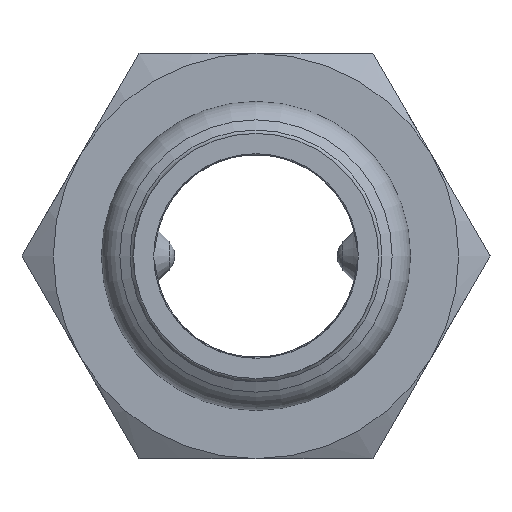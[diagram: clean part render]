
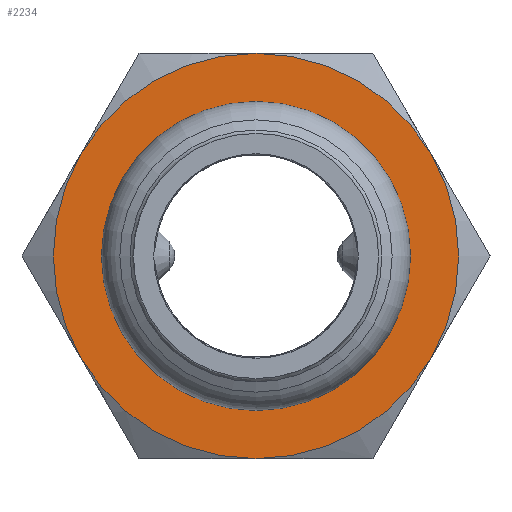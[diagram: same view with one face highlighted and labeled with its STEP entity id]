
A CAD part, left-side view. The second image highlights one B-rep face of the part: STEP entity #2234.
In plain terms, the highlighted planar face has unit normal (-1, 0, 0) as drawn and (0, 0, -1) by its records, which use the part's own axes.
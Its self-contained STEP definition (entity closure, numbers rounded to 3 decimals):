
#1424=CARTESIAN_POINT('',(-12.99,7.5,0.));
#1425=VERTEX_POINT('',#1424);
#1439=CARTESIAN_POINT('',(0.,15.,0.));
#1440=VERTEX_POINT('',#1439);
#1454=CARTESIAN_POINT('',(0.0,0.0,0.0));
#1455=DIRECTION('',(0.0,0.0,-1.0));
#1456=DIRECTION('',(1.0,0.0,0.0));
#1457=AXIS2_PLACEMENT_3D('',#1454,#1455,#1456);
#1458=CIRCLE('',#1457,15.);
#1459=EDGE_CURVE('',#1425,#1440,#1458,.T.);
#1471=CARTESIAN_POINT('',(-12.99,-7.5,0.));
#1472=VERTEX_POINT('',#1471);
#1499=CARTESIAN_POINT('',(0.0,0.0,0.0));
#1500=DIRECTION('',(0.0,0.0,-1.0));
#1501=DIRECTION('',(1.0,0.0,0.0));
#1502=AXIS2_PLACEMENT_3D('',#1499,#1500,#1501);
#1503=CIRCLE('',#1502,15.);
#1504=EDGE_CURVE('',#1472,#1425,#1503,.T.);
#1516=CARTESIAN_POINT('',(0.,-15.,0.));
#1517=VERTEX_POINT('',#1516);
#1544=CARTESIAN_POINT('',(0.0,0.0,0.0));
#1545=DIRECTION('',(0.0,0.0,-1.0));
#1546=DIRECTION('',(1.0,0.0,0.0));
#1547=AXIS2_PLACEMENT_3D('',#1544,#1545,#1546);
#1548=CIRCLE('',#1547,15.);
#1549=EDGE_CURVE('',#1517,#1472,#1548,.T.);
#1574=CARTESIAN_POINT('',(12.99,-7.5,0.));
#1575=VERTEX_POINT('',#1574);
#1576=CARTESIAN_POINT('',(0.0,0.0,0.0));
#1577=DIRECTION('',(0.0,0.0,-1.0));
#1578=DIRECTION('',(1.0,0.0,0.0));
#1579=AXIS2_PLACEMENT_3D('',#1576,#1577,#1578);
#1580=CIRCLE('',#1579,15.);
#1581=EDGE_CURVE('',#1575,#1517,#1580,.T.);
#1619=CARTESIAN_POINT('',(12.99,7.5,0.));
#1620=VERTEX_POINT('',#1619);
#1621=CARTESIAN_POINT('',(0.0,0.0,0.0));
#1622=DIRECTION('',(0.0,0.0,-1.0));
#1623=DIRECTION('',(1.0,0.0,0.0));
#1624=AXIS2_PLACEMENT_3D('',#1621,#1622,#1623);
#1625=CIRCLE('',#1624,15.);
#1626=EDGE_CURVE('',#1620,#1575,#1625,.T.);
#1664=CARTESIAN_POINT('',(0.0,0.0,0.0));
#1665=DIRECTION('',(0.0,0.0,-1.0));
#1666=DIRECTION('',(1.0,0.0,0.0));
#1667=AXIS2_PLACEMENT_3D('',#1664,#1665,#1666);
#1668=CIRCLE('',#1667,15.);
#1669=EDGE_CURVE('',#1440,#1620,#1668,.T.);
#2142=CARTESIAN_POINT('',(-9.25,0.0,0.0));
#2143=VERTEX_POINT('',#2142);
#2144=CARTESIAN_POINT('',(0.0,0.0,0.0));
#2145=DIRECTION('',(0.0,0.0,1.0));
#2146=DIRECTION('',(-1.0,0.0,0.0));
#2147=AXIS2_PLACEMENT_3D('',#2144,#2145,#2146);
#2148=CIRCLE('',#2147,9.25);
#2149=EDGE_CURVE('',#2143,#2143,#2148,.T.);
#2218=CARTESIAN_POINT('',(0.,0.,0.0));
#2219=DIRECTION('',(0.0,0.0,1.0));
#2220=DIRECTION('',(1.0,0.0,0.0));
#2221=AXIS2_PLACEMENT_3D('',#2218,#2219,#2220);
#2222=PLANE('',#2221);
#2223=ORIENTED_EDGE('',*,*,#1669,.T.);
#2224=ORIENTED_EDGE('',*,*,#1626,.T.);
#2225=ORIENTED_EDGE('',*,*,#1581,.T.);
#2226=ORIENTED_EDGE('',*,*,#1549,.T.);
#2227=ORIENTED_EDGE('',*,*,#1504,.T.);
#2228=ORIENTED_EDGE('',*,*,#1459,.T.);
#2229=EDGE_LOOP('',(#2223,#2224,#2225,#2226,#2227,#2228));
#2230=FACE_OUTER_BOUND('',#2229,.T.);
#2231=ORIENTED_EDGE('',*,*,#2149,.T.);
#2232=EDGE_LOOP('',(#2231));
#2233=FACE_BOUND('',#2232,.T.);
#2234=ADVANCED_FACE('',(#2230,#2233),#2222,.F.);
